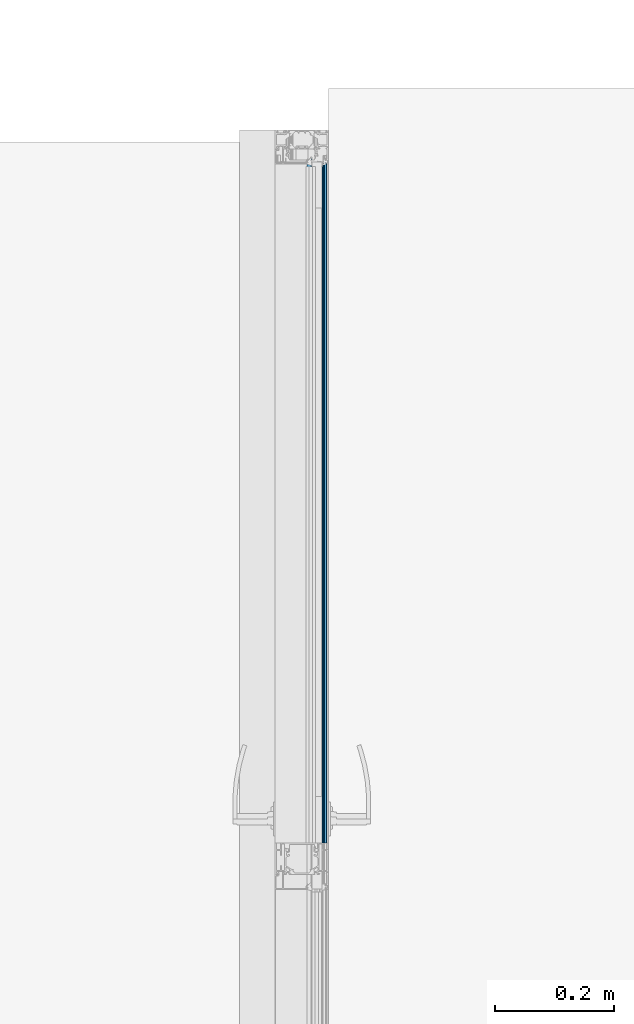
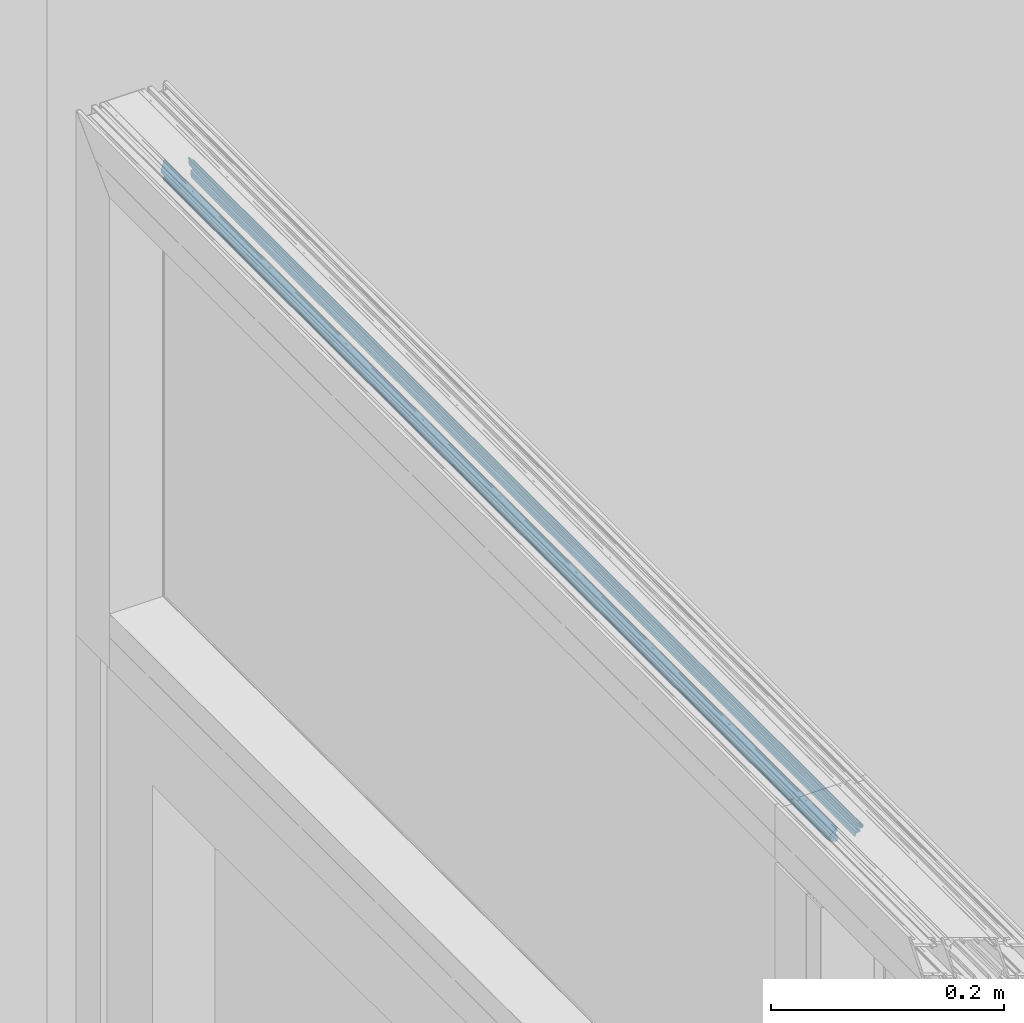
# One storey, part 17 of 62: 1 building element part, 2 elements without a shape of their own.
"""IFC2X3 building model written with IfcOpenShell, lengths in millimetres."""

from ifc_helpers import new_model, entity, si_unit, converted_unit, derived_unit, money_unit, direction, frame, origin_with_axes, place, context, subcontext, project, spatial, faceted_brep, source, transform, mapped, material, type_object, element, aggregate, save


model = new_model("IFC2X3")

# Units and contexts
model_context = context("Model", 3, precision=0.01, world=origin_with_axes(), true_north=direction((0.0, 1.0)))
body_context = subcontext(model_context, "Body", "Model", "MODEL_VIEW")
ifc_project = project(units=[si_unit("LENGTHUNIT", "METRE", prefix="MILLI"), si_unit("AREAUNIT", "SQUARE_METRE"), si_unit("VOLUMEUNIT", "CUBIC_METRE"), converted_unit("PLANEANGLEUNIT", "DEGREE", entity("IfcPlaneAngleMeasure", 0.0174532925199), si_unit("PLANEANGLEUNIT", "RADIAN"), dimensions=[0, 0, 0, 0, 0, 0, 0]), si_unit("SOLIDANGLEUNIT", "STERADIAN"), money_unit("EUR"), converted_unit("TIMEUNIT", "Year", entity("IfcTimeMeasure", 31556926.0), si_unit("TIMEUNIT", "SECOND"), dimensions=[0, 0, 1, 0, 0, 0, 0]), si_unit("MASSUNIT", "GRAM", prefix="KILO"), si_unit("THERMODYNAMICTEMPERATUREUNIT", "DEGREE_CELSIUS"), si_unit("LUMINOUSINTENSITYUNIT", "LUMEN"), si_unit("ENERGYUNIT", "JOULE", prefix="MEGA"), derived_unit("THERMALCONDUCTANCEUNIT", [(si_unit("POWERUNIT", "WATT"), 1), (si_unit("LENGTHUNIT", "METRE"), -1), (si_unit("THERMODYNAMICTEMPERATUREUNIT", "KELVIN"), -1)]), derived_unit("SPECIFICHEATCAPACITYUNIT", [(si_unit("ENERGYUNIT", "JOULE"), 1), (si_unit("MASSUNIT", "GRAM", prefix="KILO"), -1), (si_unit("THERMODYNAMICTEMPERATUREUNIT", "KELVIN"), -1)]), derived_unit("MASSDENSITYUNIT", [(si_unit("MASSUNIT", "GRAM", prefix="KILO"), 1), (si_unit("VOLUMEUNIT", "CUBIC_METRE"), -1)])], contexts=[model_context])

# Site, building, storey
site_placement = place(None, origin_with_axes())
site = spatial("IfcSite", under=ifc_project, at=site_placement, Name="Puškini 31, Narva", CompositionType="ELEMENT")
building_placement = place(site_placement, origin_with_axes())
building = spatial("IfcBuilding", under=site, at=building_placement, Name="Narva Riigigümnaasium", CompositionType="ELEMENT")
storey_placement = place(building_placement, frame((0.0, 0.0, 660.0), z_axis=(0.0, 0.0, 1.0), x_axis=(1.0, 0.0, 0.0)))
storey = spatial("IfcBuildingStorey", under=building, at=storey_placement, Name="2.korrus +0.66", CompositionType="ELEMENT", Elevation=660.0)

# Curtain wall, member, building element part
curtain_wall_type = type_object("IfcCurtainWallType", Name="Curtain Wall Type", PredefinedType="NOTDEFINED")
curtain_wall_placement = place(storey_placement, frame((34855.0128096, 223200.000065, -2.45869393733e-05), z_axis=(0.0, 0.0, 1.0), x_axis=(1.0, 0.0, 0.0)))
curtain_wall = element("IfcCurtainWall", 1, at=curtain_wall_placement, inside=storey, type_object=curtain_wall_type, Name="G-SKLF-50")
member_type = type_object("IfcMemberType", Name="61 x 45", PredefinedType="MULLION")
member_placement = place(curtain_wall_placement, frame((-0.00257308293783, -599.999999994, 2950.00002459), z_axis=(4.28847155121e-06, 0.999999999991, 0.0), x_axis=(0.0, 0.0, -1.0)))
member = element("IfcMember", 2, at=member_placement, type_object=member_type, Name="G-SKLF-55-raam", ObjectType="MULLION")
aggregate(curtain_wall, [member])
ifc_material = material(Name="Membraan - Veekindel")
shared_shape = source(origin_with_axes(), body_context, "Body", "Brep", [
    faceted_brep([(-61.0413385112, 34.3890442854, -3.94591667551e-07), (-61.0413385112, 34.3890442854, 1138.95866149), (-59.5800222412, 34.73794757, 1140.41997776), (-59.5800222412, 34.73794757, -3.94591667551e-07), (-61.1536677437, 34.1934467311, -3.94591667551e-07), (-61.1536677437, 34.1934467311, 1138.84633226), (-61.1423164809, 33.9681748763, 1138.85768352), (-61.0108941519, 33.784859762, 1138.98910585), (-60.7381535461, 33.9217644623, 1139.26184645), (-59.8409257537, 34.1343131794, 1140.15907425), (-58.2346494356, 34.5489145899, 1141.76535056), (-56.9567944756, 35.6067920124, 1143.04320552), (-56.2495873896, 37.1074172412, 1143.75041261), (-56.1542959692, 37.3107917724, 1143.84570403), (-55.9795989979, 37.4519392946, 1144.020401), (-55.7607444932, 37.5023809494, 1144.23925551), (-55.1093263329, 37.5023809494, 1144.89067367), (-54.8593263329, 37.4353936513, 1145.14067367), (-54.676313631, 37.2523809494, 1145.32368637), (-54.2721684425, 36.5523809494, 1145.72783156), (-54.0891557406, 36.3693682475, 1145.91084426), (-53.8391557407, 36.3023809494, 1146.16084426), (-51.602145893, 36.3023809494, 1148.39785411), (-51.352145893, 36.3693682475, 1148.64785411), (-51.1691331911, 36.5523809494, 1148.83086681), (-50.7649880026, 37.2523809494, 1149.235012), (-50.5819753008, 37.4353936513, 1149.4180247), (-50.3319753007, 37.5023809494, 1149.6680247), (-49.2206527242, 37.5023809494, 1150.77934728), (-48.9706527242, 37.5693682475, 1151.02934728), (-48.7876400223, 37.7523809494, 1151.21235998), (-48.7206527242, 38.0023809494, 1151.27934728), (-48.7206527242, 39.1999494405, 1151.27934728), (-50.10004, 39.1999494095, 1149.89996), (-50.1670287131, 38.9499497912, 1149.83297129), (-50.3500424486, 38.7669381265, 1149.64995755), (-50.6000428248, 38.699952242, 1149.39995718), (-50.8500424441, 38.7669409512, 1149.14995756), (-51.0330541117, 38.9499546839, 1148.96694589), (-51.10004, 39.1999550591, 1148.89996), (-51.10004, 40.4999366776, 1148.89996), (-51.0598476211, 40.6499366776, 1148.94015238), (-50.95004, 40.7597442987, 1149.04996), (-50.80004, 40.7999366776, 1149.19996), (-50.7000457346, 40.7999366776, 1149.29995427), (-50.5334025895, 40.8504763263, 1149.46659741), (-50.4229059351, 40.9850671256, 1149.57709406), (-50.4057850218, 41.1583618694, 1149.59421498), (-50.4878083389, 41.3119729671, 1149.51219166), (-51.5281601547, 42.3533311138, 1148.47183985), (-51.6904310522, 42.4618421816, 1148.30956895), (-51.8818844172, 42.4999486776, 1148.11811558), (-53.517932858, 42.4999486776, 1146.48206714), (-53.7093558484, 42.4618547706, 1146.29064415), (-53.8716106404, 42.3533776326, 1146.12838936), (-54.9122350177, 41.3120206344, 1145.08776498), (-54.9942836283, 41.1584047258, 1145.00571637), (-54.9771753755, 40.9850924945, 1145.02282462), (-54.866675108, 40.850483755, 1145.13332489), (-54.7000173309, 40.7999366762, 1145.29998267), (-54.6000210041, 40.7999366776, 1145.399979), (-54.4500210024, 40.7597443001, 1145.549979), (-54.3402133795, 40.6499366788, 1145.65978662), (-54.300021, 40.4999366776, 1145.699979), (-54.300021, 39.1999606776, 1145.699979), (-54.3670082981, 38.9499606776, 1145.6329917), (-54.5500210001, 38.7669479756, 1145.449979), (-54.8000210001, 38.6999606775, 1145.199979), (-55.0500210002, 38.7669479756, 1144.949979), (-55.2330337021, 38.9499606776, 1144.7669663), (-55.3000210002, 39.1999606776, 1144.699979), (-57.3000022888, 39.1999494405, 1142.69999771), (-57.3000022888, 39.9999846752, 1142.69999771), (-57.5000161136, 39.946391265, 1142.49998389), (-57.6464370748, 39.799971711, 1142.35356293), (-57.7000324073, 39.5999584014, 1142.29996759), (-57.9693613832, 36.5265882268, 1142.03063862), (-58.4755028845, 35.3628499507, 1141.52449712), (-53.5000340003, 40.7999553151, 1146.499966), (-53.4330491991, 41.0499459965, 1146.5669508), (-53.2500433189, 41.2329518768, 1146.74995668), (-53.0000526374, 41.299936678, 1146.99994736), (-52.4000083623, 41.299936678, 1147.59999164), (-52.150017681, 41.2329518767, 1147.84998232), (-51.9670118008, 41.0499459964, 1148.0329882), (-51.9000269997, 40.799955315, 1148.099973), (-51.9000269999, 39.6999268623, 1148.099973), (-51.9670129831, 39.4499317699, 1148.03298702), (-52.1500220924, 39.2669226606, 1147.84997791), (-52.4000171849, 39.1999366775, 1147.59998282), (-53.0000438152, 39.1999366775, 1146.99995618), (-53.2500389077, 39.2669226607, 1146.74996109), (-53.433048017, 39.44993177, 1146.56695198), (-58.4755028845, 35.3628499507, -3.94591667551e-07), (-57.9693613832, 36.5265882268, -3.94591667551e-07), (-57.7000324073, 39.5999584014, -3.94591667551e-07), (-57.6464370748, 39.799971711, -3.94591667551e-07), (-57.5000161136, 39.946391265, -3.94591667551e-07), (-57.3000022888, 39.9999846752, -3.94591667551e-07), (-57.3000022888, 39.1999494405, -3.94591667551e-07), (-55.3000210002, 39.1999606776, -3.94591667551e-07), (-55.2330337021, 38.9499606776, -3.94591667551e-07), (-55.0500210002, 38.7669479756, -3.94591667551e-07), (-54.8000210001, 38.6999606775, -3.94591667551e-07), (-54.5500210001, 38.7669479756, -3.94591667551e-07), (-54.3670082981, 38.9499606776, -3.94591667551e-07), (-54.300021, 39.1999606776, -3.94591667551e-07), (-54.300021, 40.4999366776, -3.94591667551e-07), (-54.3402133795, 40.6499366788, -3.94591667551e-07), (-54.4500210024, 40.7597443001, -3.94591667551e-07), (-54.6000210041, 40.7999366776, -3.94591667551e-07), (-54.7000173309, 40.7999366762, -3.94591667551e-07), (-54.866675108, 40.850483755, -3.94591667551e-07), (-54.9771753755, 40.9850924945, -3.94591667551e-07), (-54.9942836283, 41.1584047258, -3.94591667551e-07), (-54.9122350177, 41.3120206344, -3.94591667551e-07), (-53.8716106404, 42.3533776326, -3.94591667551e-07), (-53.7093558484, 42.4618547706, -3.94591667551e-07), (-53.517932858, 42.4999486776, -3.94591667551e-07), (-51.8818844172, 42.4999486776, -3.94591667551e-07), (-51.6904310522, 42.4618421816, -3.94591667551e-07), (-51.5281601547, 42.3533311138, -3.94591667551e-07), (-50.4878083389, 41.3119729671, -3.94591667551e-07), (-50.4057850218, 41.1583618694, -3.94591667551e-07), (-50.4229059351, 40.9850671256, -3.94591667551e-07), (-50.5334025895, 40.8504763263, -3.94591667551e-07), (-50.7000457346, 40.7999366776, -3.94591667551e-07), (-50.80004, 40.7999366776, -3.94591667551e-07), (-50.95004, 40.7597442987, -3.94591667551e-07), (-51.0598476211, 40.6499366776, -3.94591667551e-07), (-51.10004, 40.4999366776, -3.94591667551e-07), (-51.10004, 39.1999550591, -3.94591667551e-07), (-51.0330541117, 38.9499546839, -3.94591667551e-07), (-50.8500424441, 38.7669409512, -3.94591667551e-07), (-50.6000428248, 38.699952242, -3.94591667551e-07), (-50.3500424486, 38.7669381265, -3.94591667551e-07), (-50.1670287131, 38.9499497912, -3.94591667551e-07), (-50.10004, 39.1999494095, -3.94591667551e-07), (-48.7206527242, 39.1999494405, -3.94591667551e-07), (-48.7206527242, 38.0023809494, -3.94591667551e-07), (-48.7876400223, 37.7523809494, -3.94591667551e-07), (-48.9706527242, 37.5693682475, -3.94591667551e-07), (-49.2206527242, 37.5023809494, -3.94591667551e-07), (-50.3319753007, 37.5023809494, -3.94591667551e-07), (-50.5819753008, 37.4353936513, -3.94591667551e-07), (-50.7649880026, 37.2523809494, -3.94591667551e-07), (-51.1691331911, 36.5523809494, -3.94591667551e-07), (-51.352145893, 36.3693682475, -3.94591667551e-07), (-51.602145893, 36.3023809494, -3.94591667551e-07), (-53.8391557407, 36.3023809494, -3.94591667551e-07), (-54.0891557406, 36.3693682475, -3.94591667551e-07), (-54.2721684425, 36.5523809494, -3.94591667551e-07), (-54.676313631, 37.2523809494, -3.94591667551e-07), (-54.8593263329, 37.4353936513, -3.94591667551e-07), (-55.1093263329, 37.5023809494, -3.94591667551e-07), (-55.7607444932, 37.5023809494, -3.94591667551e-07), (-55.9795989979, 37.4519392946, -3.94591667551e-07), (-56.1542959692, 37.3107917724, -3.94591667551e-07), (-56.2495873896, 37.1074172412, -3.94591667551e-07), (-56.9567944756, 35.6067920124, -3.94591667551e-07), (-58.2346494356, 34.5489145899, -3.94591667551e-07), (-59.8409257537, 34.1343131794, -3.94591667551e-07), (-60.7381535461, 33.9217644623, -3.94591667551e-07), (-61.0108941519, 33.784859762, -3.94591667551e-07), (-61.1423164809, 33.9681748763, -3.94591667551e-07), (-53.5000340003, 40.7999553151, -3.94591667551e-07), (-53.433048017, 39.44993177, -3.94591667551e-07), (-53.2500389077, 39.2669226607, -3.94591667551e-07), (-53.0000438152, 39.1999366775, -3.94591667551e-07), (-52.4000171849, 39.1999366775, -3.94591667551e-07), (-52.1500220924, 39.2669226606, -3.94591667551e-07), (-51.9670129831, 39.4499317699, -3.94591667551e-07), (-51.9000269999, 39.6999268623, -3.94591667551e-07), (-51.9000269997, 40.799955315, -3.94591667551e-07), (-51.9670118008, 41.0499459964, -3.94591667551e-07), (-52.150017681, 41.2329518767, -3.94591667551e-07), (-52.4000083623, 41.299936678, -3.94591667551e-07), (-53.0000526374, 41.299936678, -3.94591667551e-07), (-53.2500433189, 41.2329518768, -3.94591667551e-07), (-53.4330491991, 41.0499459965, -3.94591667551e-07)], [[[0, 1, 2, 3]], [[4, 5, 1, 0]], [[1, 5, 6, 7, 8, 9, 10, 11, 12, 13, 14, 15, 16, 17, 18, 19, 20, 21, 22, 23, 24, 25, 26, 27, 28, 29, 30, 31, 32, 33, 34, 35, 36, 37, 38, 39, 40, 41, 42, 43, 44, 45, 46, 47, 48, 49, 50, 51, 52, 53, 54, 55, 56, 57, 58, 59, 60, 61, 62, 63, 64, 65, 66, 67, 68, 69, 70, 71, 72, 73, 74, 75, 76, 77, 2], [78, 79, 80, 81, 82, 83, 84, 85, 86, 87, 88, 89, 90, 91, 92]], [[3, 2, 77, 93]], [[0, 3, 93, 94, 95, 96, 97, 98, 99, 100, 101, 102, 103, 104, 105, 106, 107, 108, 109, 110, 111, 112, 113, 114, 115, 116, 117, 118, 119, 120, 121, 122, 123, 124, 125, 126, 127, 128, 129, 130, 131, 132, 133, 134, 135, 136, 137, 138, 139, 140, 141, 142, 143, 144, 145, 146, 147, 148, 149, 150, 151, 152, 153, 154, 155, 156, 157, 158, 159, 160, 161, 162, 163, 164, 4], [165, 166, 167, 168, 169, 170, 171, 172, 173, 174, 175, 176, 177, 178, 179]], [[164, 6, 5, 4]], [[163, 7, 6, 164]], [[162, 8, 7, 163]], [[161, 9, 8, 162]], [[160, 10, 9, 161]], [[159, 11, 10, 160]], [[158, 12, 11, 159]], [[157, 13, 12, 158]], [[156, 14, 13, 157]], [[155, 15, 14, 156]], [[154, 16, 15, 155]], [[153, 17, 16, 154]], [[152, 18, 17, 153]], [[151, 19, 18, 152]], [[150, 20, 19, 151]], [[149, 21, 20, 150]], [[148, 22, 21, 149]], [[147, 23, 22, 148]], [[146, 24, 23, 147]], [[145, 25, 24, 146]], [[144, 26, 25, 145]], [[143, 27, 26, 144]], [[142, 28, 27, 143]], [[141, 29, 28, 142]], [[140, 30, 29, 141]], [[139, 31, 30, 140]], [[138, 32, 31, 139]], [[137, 33, 32, 138]], [[136, 34, 33, 137]], [[135, 35, 34, 136]], [[134, 36, 35, 135]], [[133, 37, 36, 134]], [[132, 38, 37, 133]], [[131, 39, 38, 132]], [[130, 40, 39, 131]], [[129, 41, 40, 130]], [[128, 42, 41, 129]], [[127, 43, 42, 128]], [[126, 44, 43, 127]], [[125, 45, 44, 126]], [[124, 46, 45, 125]], [[123, 47, 46, 124]], [[122, 48, 47, 123]], [[121, 49, 48, 122]], [[120, 50, 49, 121]], [[119, 51, 50, 120]], [[118, 52, 51, 119]], [[117, 53, 52, 118]], [[116, 54, 53, 117]], [[115, 55, 54, 116]], [[114, 56, 55, 115]], [[113, 57, 56, 114]], [[112, 58, 57, 113]], [[111, 59, 58, 112]], [[110, 60, 59, 111]], [[109, 61, 60, 110]], [[108, 62, 61, 109]], [[107, 63, 62, 108]], [[106, 64, 63, 107]], [[105, 65, 64, 106]], [[104, 66, 65, 105]], [[103, 67, 66, 104]], [[102, 68, 67, 103]], [[101, 69, 68, 102]], [[100, 70, 69, 101]], [[99, 71, 70, 100]], [[98, 72, 71, 99]], [[97, 73, 72, 98]], [[96, 74, 73, 97]], [[95, 75, 74, 96]], [[94, 76, 75, 95]], [[93, 77, 76, 94]], [[179, 79, 78, 165]], [[178, 80, 79, 179]], [[177, 81, 80, 178]], [[176, 82, 81, 177]], [[175, 83, 82, 176]], [[174, 84, 83, 175]], [[173, 85, 84, 174]], [[172, 86, 85, 173]], [[171, 87, 86, 172]], [[170, 88, 87, 171]], [[169, 89, 88, 170]], [[168, 90, 89, 169]], [[167, 91, 90, 168]], [[166, 92, 91, 167]], [[165, 78, 92, 166]]]),
    faceted_brep([(-59.0307115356, 16.554149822, -3.94591667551e-07), (-59.0307115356, 16.554149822, 1140.96928846), (-55.9926715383, 16.8063498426, 1144.00732846), (-55.9926715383, 16.8063498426, -3.94591667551e-07), (-59.3884652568, 16.1092618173, -3.94591667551e-07), (-59.3884652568, 16.1092618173, 1140.61153474), (-59.5001582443, 15.5494067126, 1140.49984176), (-59.3405112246, 15.0012955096, 1140.65948878), (-57.5418652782, 10.0035930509, 1142.45813472), (-57.2632233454, 8.46932121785, 1142.73677665), (-57.1824204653, 8.36745448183, 1142.81757953), (-57.0661058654, 8.3093438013, 1142.93389413), (-56.9361285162, 8.30590490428, 1143.06387148), (-55.5361285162, 8.57803733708, 1144.46387148), (-55.4168250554, 8.62997353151, 1144.58317494), (-55.3307332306, 8.72753828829, 1144.66926677), (-55.2940485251, 8.85237785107, 1144.70595147), (-55.4099827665, 9.81272116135, 1144.59001723), (-55.3838261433, 9.9780831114, 1144.61617386), (-55.2731258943, 10.1036784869, 1144.72687411), (-55.1123574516, 10.1503930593, 1144.88764255), (-53.0580290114, 10.1503930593, 1146.94197099), (-52.8859560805, 10.0961386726, 1147.11404392), (-52.7761212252, 9.95299910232, 1147.22387877), (-52.3556584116, 8.79778701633, 1147.64434159), (-52.2574645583, 8.66326410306, 1147.74253544), (-52.1026310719, 8.60190419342, 1147.89736893), (-51.938943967, 8.6326446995, 1148.06105603), (-51.8169217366, 8.74599822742, 1148.18307826), (-45.6142070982, 15.4144760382, 1154.3857929), (-45.3418968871, 15.7688623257, 1154.65810311), (-45.3195226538, 16.2152275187, 1154.68047735), (-45.3889077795, 16.3899097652, 1154.61109222), (-45.6241929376, 16.6482027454, 1154.37580706), (-45.950966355, 16.7718696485, 1154.04903365), (-46.298307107, 16.7340705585, 1153.70169289), (-50.5536994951, 15.2121179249, 1149.4463005), (-50.8437237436, 15.0307134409, 1149.15627626), (-51.0558924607, 14.9074036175, 1148.94410754), (-51.3011765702, 14.8998814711, 1148.69882343), (-51.5205025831, 15.0099586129, 1148.47949742), (-53.1225200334, 16.3483062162, 1146.87747997), (-53.7899070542, 16.6230039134, 1146.21009295), (-53.7899070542, 16.6230039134, -3.94591667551e-07), (-53.1225200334, 16.3483062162, -3.94591667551e-07), (-51.5205025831, 15.0099586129, -3.94591667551e-07), (-51.3011765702, 14.8998814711, -3.94591667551e-07), (-51.0558924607, 14.9074036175, -3.94591667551e-07), (-50.8437237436, 15.0307134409, -3.94591667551e-07), (-50.5536994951, 15.2121179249, -3.94591667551e-07), (-46.298307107, 16.7340705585, -3.94591667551e-07), (-45.950966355, 16.7718696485, -3.94591667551e-07), (-45.6241929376, 16.6482027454, -3.94591667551e-07), (-45.3889077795, 16.3899097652, -3.94591667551e-07), (-45.3195226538, 16.2152275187, -3.94591667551e-07), (-45.3418968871, 15.7688623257, -3.94591667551e-07), (-45.6142070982, 15.4144760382, -3.94591667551e-07), (-51.8169217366, 8.74599822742, -3.94591667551e-07), (-51.938943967, 8.6326446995, -3.94591667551e-07), (-52.1026310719, 8.60190419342, -3.94591667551e-07), (-52.2574645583, 8.66326410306, -3.94591667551e-07), (-52.3556584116, 8.79778701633, -3.94591667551e-07), (-52.7761212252, 9.95299910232, -3.94591667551e-07), (-52.8859560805, 10.0961386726, -3.94591667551e-07), (-53.0580290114, 10.1503930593, -3.94591667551e-07), (-55.1123574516, 10.1503930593, -3.94591667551e-07), (-55.2731258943, 10.1036784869, -3.94591667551e-07), (-55.3838261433, 9.9780831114, -3.94591667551e-07), (-55.4099827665, 9.81272116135, -3.94591667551e-07), (-55.2940485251, 8.85237785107, -3.94591667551e-07), (-55.3307332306, 8.72753828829, -3.94591667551e-07), (-55.4168250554, 8.62997353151, -3.94591667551e-07), (-55.5361285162, 8.57803733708, -3.94591667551e-07), (-56.9361285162, 8.30590490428, -3.94591667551e-07), (-57.0661058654, 8.3093438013, -3.94591667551e-07), (-57.1824204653, 8.36745448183, -3.94591667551e-07), (-57.2632233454, 8.46932121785, -3.94591667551e-07), (-57.5418652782, 10.0035930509, -3.94591667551e-07), (-59.3405112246, 15.0012955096, -3.94591667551e-07), (-59.5001582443, 15.5494067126, -3.94591667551e-07)], [[[0, 1, 2, 3]], [[4, 5, 1, 0]], [[1, 5, 6, 7, 8, 9, 10, 11, 12, 13, 14, 15, 16, 17, 18, 19, 20, 21, 22, 23, 24, 25, 26, 27, 28, 29, 30, 31, 32, 33, 34, 35, 36, 37, 38, 39, 40, 41, 42, 2]], [[3, 2, 42, 43]], [[0, 3, 43, 44, 45, 46, 47, 48, 49, 50, 51, 52, 53, 54, 55, 56, 57, 58, 59, 60, 61, 62, 63, 64, 65, 66, 67, 68, 69, 70, 71, 72, 73, 74, 75, 76, 77, 78, 79, 4]], [[79, 6, 5, 4]], [[78, 7, 6, 79]], [[77, 8, 7, 78]], [[76, 9, 8, 77]], [[75, 10, 9, 76]], [[74, 11, 10, 75]], [[73, 12, 11, 74]], [[72, 13, 12, 73]], [[71, 14, 13, 72]], [[70, 15, 14, 71]], [[69, 16, 15, 70]], [[68, 17, 16, 69]], [[67, 18, 17, 68]], [[66, 19, 18, 67]], [[65, 20, 19, 66]], [[64, 21, 20, 65]], [[63, 22, 21, 64]], [[62, 23, 22, 63]], [[61, 24, 23, 62]], [[60, 25, 24, 61]], [[59, 26, 25, 60]], [[58, 27, 26, 59]], [[57, 28, 27, 58]], [[56, 29, 28, 57]], [[55, 30, 29, 56]], [[54, 31, 30, 55]], [[53, 32, 31, 54]], [[52, 33, 32, 53]], [[51, 34, 33, 52]], [[50, 35, 34, 51]], [[49, 36, 35, 50]], [[48, 37, 36, 49]], [[47, 38, 37, 48]], [[46, 39, 38, 47]], [[45, 40, 39, 46]], [[44, 41, 40, 45]], [[43, 42, 41, 44]]]),
])
building_element_part_placement = place(member_placement, origin_with_axes())
building_element_part = element("IfcBuildingElementPart", 3, at=building_element_part_placement, material=ifc_material, Name="Membraan - Veekindel", context=body_context, shape_type="MappedRepresentation", body=[
    mapped(shared_shape, transform((0.0, 0.0, 0.0), x_axis=(-1.0, 0.0, 0.0), y_axis=(0.0, -1.0, 0.0), z_axis=(0.0, 0.0, 1.0))),
])
aggregate(member, [building_element_part])

save(model, "model.ifc")
